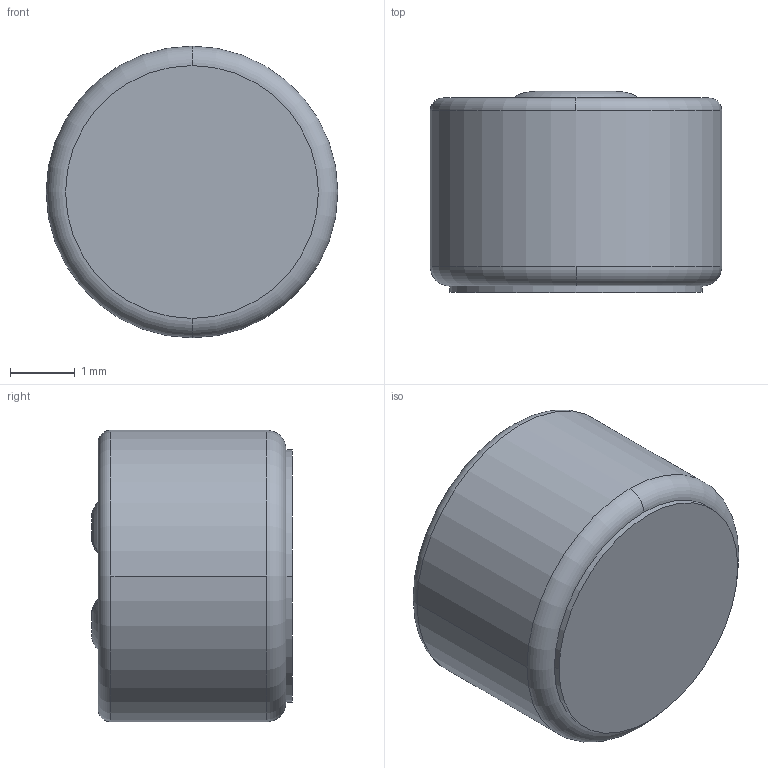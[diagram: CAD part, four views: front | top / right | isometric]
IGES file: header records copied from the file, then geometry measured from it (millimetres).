
Global section: file name: No Iges File Name specified; native system: Autodesk Inventor 2011; preprocessor: AutoDesk Inventor Iges Exporter R2011; author: Dunn; date: 20120112.090921; units: millimetre
Bounding box: 4.5 x 3.1 x 4.5 mm (x, y, z)
Volume: 24.2 mm3; surface area: 118 mm2
Topology: 1 solids, 2 shells, 39 faces, 94 edges, 58 vertices
Faces by surface type: plane 15, torus 8, cylinder 6, revolution 6, bspline 4
